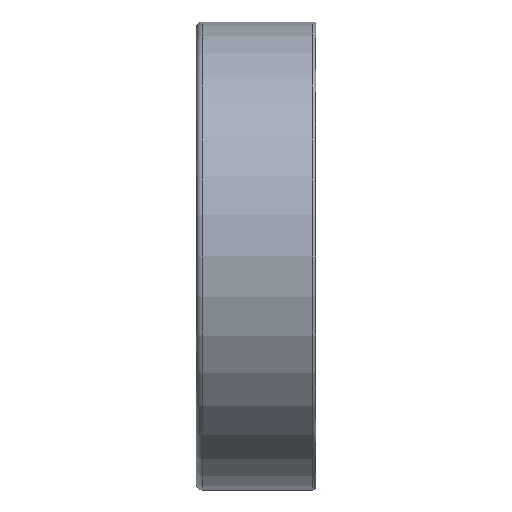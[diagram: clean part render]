
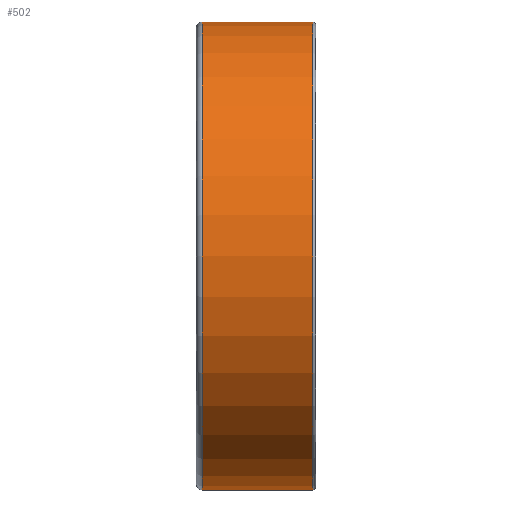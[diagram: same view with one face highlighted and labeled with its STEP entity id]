
A CAD part, front view. The second image highlights one B-rep face of the part: STEP entity #502.
In plain terms, the highlighted cylindrical face has radius 23.5 mm (diameter 47 mm), a full revolution.
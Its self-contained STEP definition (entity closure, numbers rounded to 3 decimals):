
#158=CYLINDRICAL_SURFACE('',#778,23.5);
#246=EDGE_LOOP('',(#346));
#247=EDGE_LOOP('',(#347));
#346=ORIENTED_EDGE('',*,*,#404,.F.);
#347=ORIENTED_EDGE('',*,*,#402,.T.);
#402=EDGE_CURVE('',#711,#711,#422,.T.);
#404=EDGE_CURVE('',#713,#713,#424,.T.);
#422=CIRCLE('',#774,23.5);
#424=CIRCLE('',#777,23.5);
#502=ADVANCED_FACE('',(#625,#626),#158,.T.);
#625=FACE_BOUND('',#246,.T.);
#626=FACE_BOUND('',#247,.T.);
#711=VERTEX_POINT('',#2778);
#713=VERTEX_POINT('',#2783);
#774=AXIS2_PLACEMENT_3D('',#2777,#893,#894);
#777=AXIS2_PLACEMENT_3D('',#2782,#899,#900);
#778=AXIS2_PLACEMENT_3D('',#2784,#901,#902);
#893=DIRECTION('',(1.,0.,0.));
#894=DIRECTION('',(0.,0.,-1.));
#899=DIRECTION('',(1.,0.,0.));
#900=DIRECTION('',(0.,0.,-1.));
#901=DIRECTION('',(1.,0.,0.));
#902=DIRECTION('',(0.,0.,-1.));
#2777=CARTESIAN_POINT('',(-5.4,0.,0.));
#2778=CARTESIAN_POINT('',(-5.4,0.,-23.5));
#2782=CARTESIAN_POINT('',(5.7,0.,0.));
#2783=CARTESIAN_POINT('',(5.7,0.,-23.5));
#2784=CARTESIAN_POINT('',(-5.4,0.,0.));
